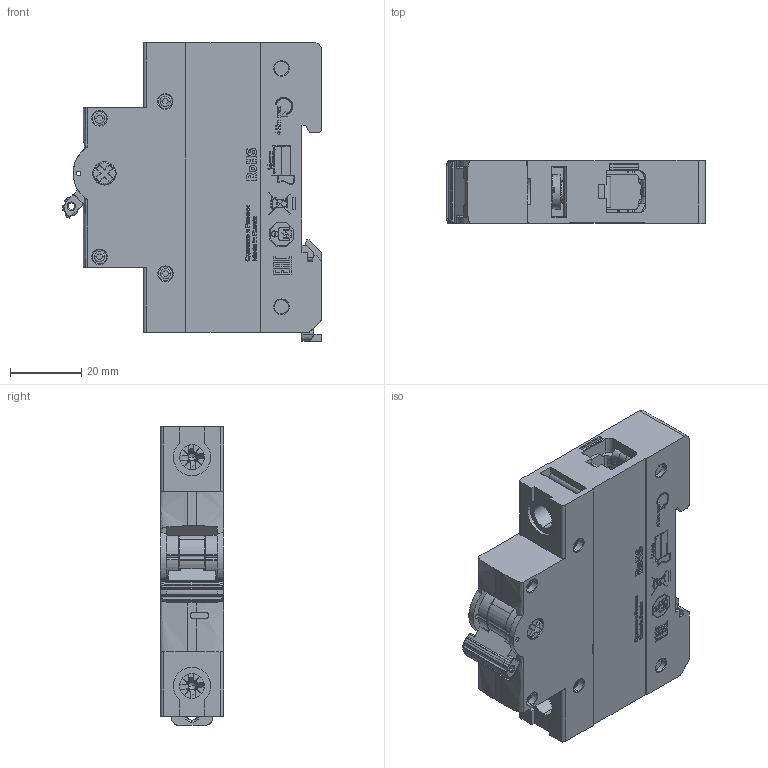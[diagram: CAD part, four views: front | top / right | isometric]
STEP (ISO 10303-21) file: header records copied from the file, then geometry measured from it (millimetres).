
FILE_DESCRIPTION (( 'STEP AP214' ), '1' );
FILE_NAME ('swn 1p_ñ çàùåëêîé.STEP', '2026-07-03T12:09:13', ( '' ), ( '' ), 'SwSTEP 2.0', 'SolidWorks 2022', '' );
FILE_SCHEMA (( 'AUTOMOTIVE_DESIGN' ));
Length unit declared in the file: millimetre
Products named in the file (1): swn 1p_с защелкой
Bounding box: 72.9 x 17.8 x 84 mm (x, y, z)
Volume: 74633.5 mm3; surface area: 35648.4 mm2
Topology: 1 solids, 45 shells, 3047 faces, 8377 edges, 5499 vertices
Faces by surface type: plane 1886, bspline 554, cylinder 424, torus 96, cone 71, sphere 16
Entity records: 151008 total; most frequent: CARTESIAN_POINT 44754, ORIENTED_EDGE 16714, DIRECTION 13109, EDGE_CURVE 8357, VECTOR 5659, LINE 5659, VERTEX_POINT 5491, AXIS2_PLACEMENT_3D 3725
